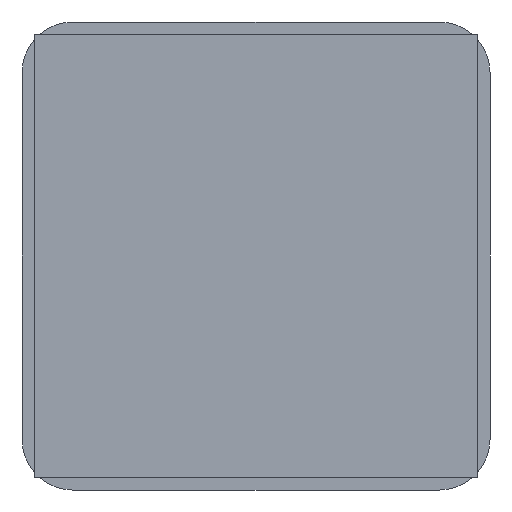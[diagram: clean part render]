
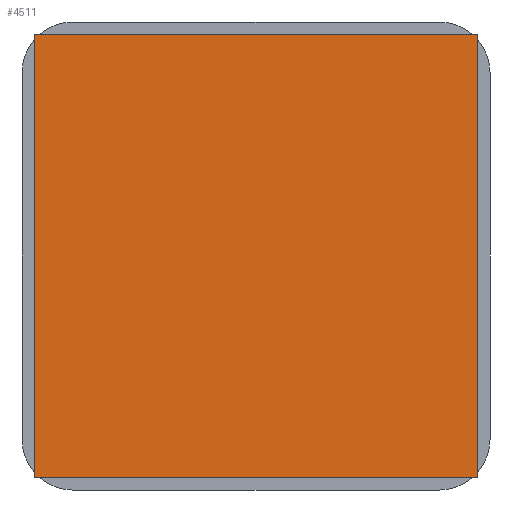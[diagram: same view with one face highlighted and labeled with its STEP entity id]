
A CAD part, front view. The second image highlights one B-rep face of the part: STEP entity #4511.
In plain terms, the highlighted planar face has unit normal (0, -1, 0).
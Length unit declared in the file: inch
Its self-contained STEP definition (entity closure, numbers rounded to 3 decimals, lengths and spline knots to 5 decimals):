
#70 = CARTESIAN_POINT ( 'NONE',  ( -0.57087, -0.005, -0.57087 ) ) ;
#175 = EDGE_CURVE ( 'NONE', #5725, #542, #5833, .T. ) ;
#230 = EDGE_CURVE ( 'NONE', #542, #1518, #3274, .T. ) ;
#308 = EDGE_LOOP ( 'NONE', ( #776, #4099, #5438, #3285 ) ) ;
#376 = CARTESIAN_POINT ( 'NONE',  ( 0.57087, -0.005, -0.57087 ) ) ;
#542 = VERTEX_POINT ( 'NONE', #1532 ) ;
#724 = VECTOR ( 'NONE', #1779, 39.37008 ) ;
#776 = ORIENTED_EDGE ( 'NONE', *, *, #175, .F. ) ;
#1149 = DIRECTION ( 'NONE',  ( 0., 0., 1. ) ) ;
#1176 = LINE ( 'NONE', #4315, #3894 ) ;
#1355 = DIRECTION ( 'NONE',  ( 0., 0., 1. ) ) ;
#1443 = DIRECTION ( 'NONE',  ( 1., 0., 0. ) ) ;
#1518 = VERTEX_POINT ( 'NONE', #3129 ) ;
#1532 = CARTESIAN_POINT ( 'NONE',  ( -0.57087, -0.005, 0.57087 ) ) ;
#1779 = DIRECTION ( 'NONE',  ( -1., 0., 0. ) ) ;
#1862 = CARTESIAN_POINT ( 'NONE',  ( -0.57087, -0.005, 0.57087 ) ) ;
#2090 = FACE_OUTER_BOUND ( 'NONE', #308, .T. ) ;
#2108 = AXIS2_PLACEMENT_3D ( 'NONE', #2502, #4807, #1149 ) ;
#2123 = PLANE ( 'NONE',  #2108 ) ;
#2171 = CARTESIAN_POINT ( 'NONE',  ( -0.57087, -0.005, -0.57087 ) ) ;
#2502 = CARTESIAN_POINT ( 'NONE',  ( -0.57087, -0.005, 0.57087 ) ) ;
#3129 = CARTESIAN_POINT ( 'NONE',  ( 0.57087, -0.005, 0.57087 ) ) ;
#3192 = LINE ( 'NONE', #70, #724 ) ;
#3234 = VERTEX_POINT ( 'NONE', #376 ) ;
#3274 = LINE ( 'NONE', #1862, #4953 ) ;
#3285 = ORIENTED_EDGE ( 'NONE', *, *, #230, .F. ) ;
#3894 = VECTOR ( 'NONE', #4782, 39.37008 ) ;
#3952 = CARTESIAN_POINT ( 'NONE',  ( -0.57087, -0.005, -0.57087 ) ) ;
#4099 = ORIENTED_EDGE ( 'NONE', *, *, #4979, .F. ) ;
#4315 = CARTESIAN_POINT ( 'NONE',  ( 0.57087, -0.005, -0.57087 ) ) ;
#4511 = ADVANCED_FACE ( 'NONE', ( #2090 ), #2123, .F. ) ;
#4538 = EDGE_CURVE ( 'NONE', #1518, #3234, #1176, .T. ) ;
#4782 = DIRECTION ( 'NONE',  ( 0., 0., -1. ) ) ;
#4807 = DIRECTION ( 'NONE',  ( 0., 1., 0. ) ) ;
#4953 = VECTOR ( 'NONE', #1443, 39.37008 ) ;
#4979 = EDGE_CURVE ( 'NONE', #3234, #5725, #3192, .T. ) ;
#5413 = VECTOR ( 'NONE', #1355, 39.37008 ) ;
#5438 = ORIENTED_EDGE ( 'NONE', *, *, #4538, .F. ) ;
#5725 = VERTEX_POINT ( 'NONE', #3952 ) ;
#5833 = LINE ( 'NONE', #2171, #5413 ) ;
